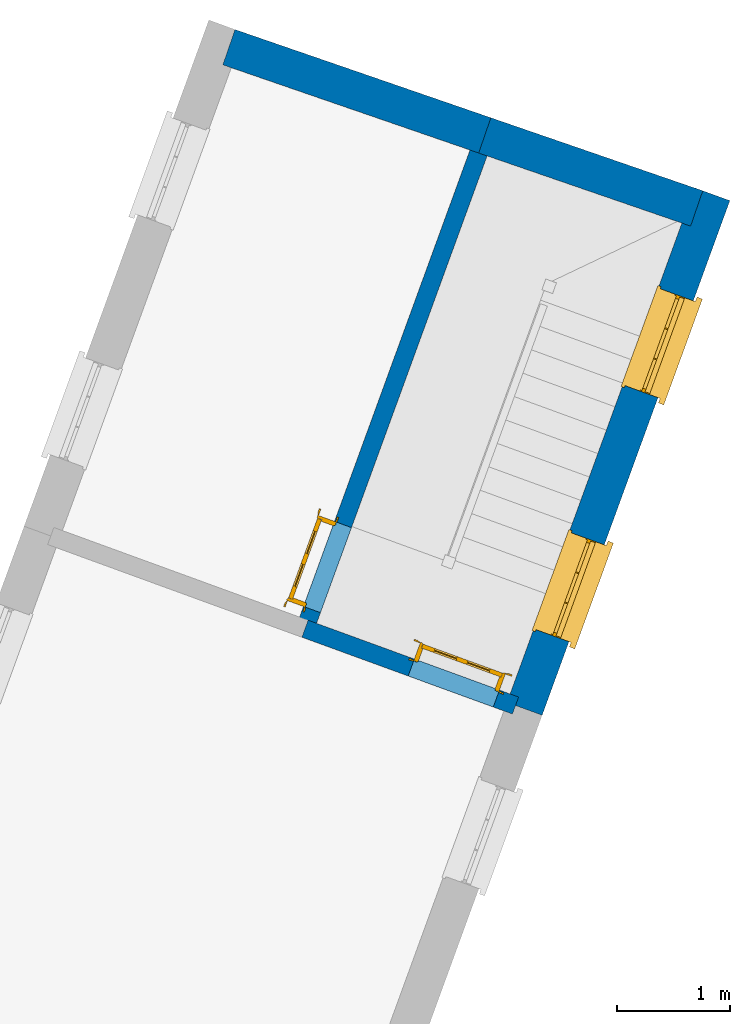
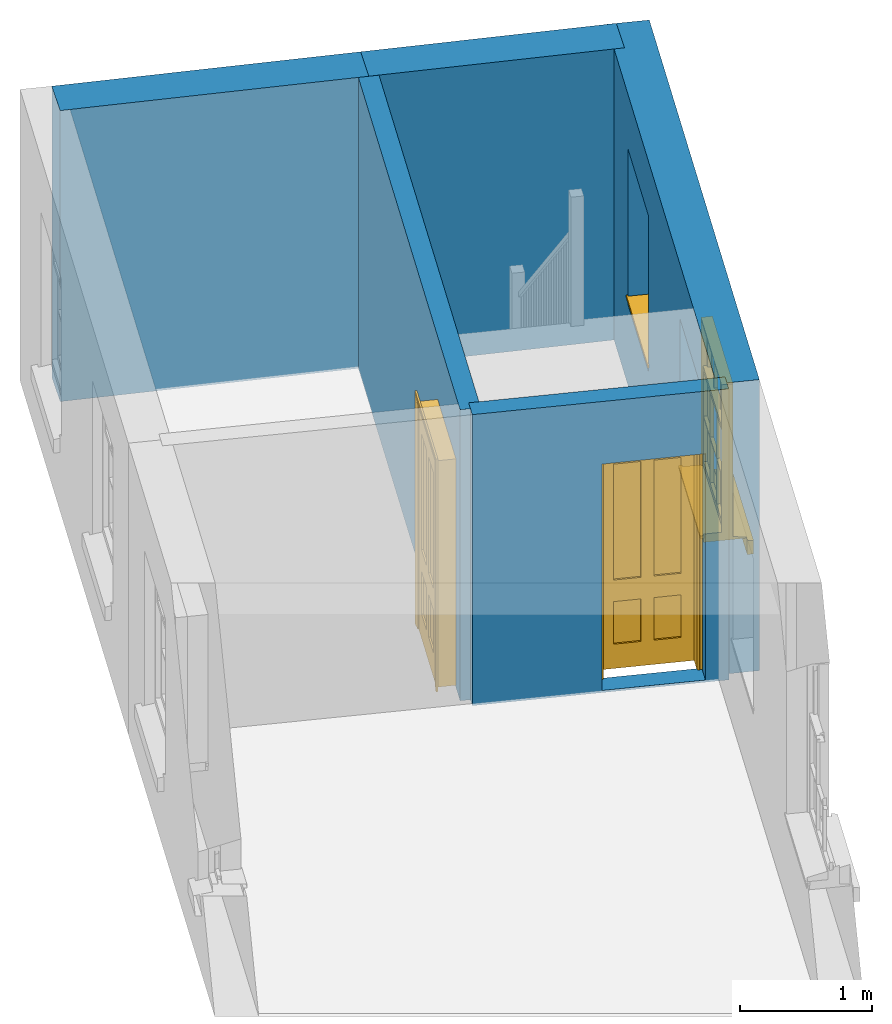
# One storey, part 2 of 2: 5 walls, 2 doors, 2 windows, 4 openings.
"""IFC4 building model written with IfcOpenShell, lengths in metres."""

from ifc_helpers import new_model, si_unit, frame, origin, origin_with_axes, place, context, subcontext, project, spatial, polyline, outline, extrude, faceted_brep, source, transform, mapped, material, layer, layer_set, layer_usage, type_object, type_shapes, element, fill, save


model = new_model("IFC4")

# Units and contexts
model_context = context("Model", 3, world=origin_with_axes())
body_context = subcontext(model_context, "Body", "Model", "MODEL_VIEW")
ifc_project = project(units=[si_unit("PLANEANGLEUNIT", "RADIAN"), si_unit("MASSUNIT", "GRAM", prefix="KILO"), si_unit("FORCEUNIT", "NEWTON", prefix="KILO"), si_unit("LENGTHUNIT", "METRE"), si_unit("AREAUNIT", "SQUARE_METRE"), si_unit("VOLUMEUNIT", "CUBIC_METRE")], contexts=[model_context, model_context])

# Sites, building, storey
site_1_placement = place(None, origin_with_axes())
site_1 = spatial("IfcSite", under=ifc_project, at=site_1_placement, Name="Tamar")
site_2_placement = place(site_1_placement, origin_with_axes())
site_2 = spatial("IfcSite", under=site_1, at=site_2_placement, Name="Site plot-12", CompositionType="ELEMENT")
building_placement = place(None, origin_with_axes())
building = spatial("IfcBuilding", under=site_2, at=building_placement, Name="Building plot-12", CompositionType="ELEMENT")
storey_placement = place(None, frame((0.0, 0.0, 29.6), z_axis=(0.0, 0.0, 1.0), x_axis=(1.0, 0.0, 0.0)))
storey = spatial("IfcBuildingStorey", under=building, at=storey_placement, Name="plot-12 1", CompositionType="ELEMENT", Elevation=29.6)

# Wall, openings, windows
ifc_material_1 = material(Name="Masonry")
ifc_layer_1 = layer(ifc_material_1, 0.33, ventilated=False)
ifc_layer_set_1 = layer_set([ifc_layer_1], Name="exterior_0.08_0.25")
ifc_layer_usage_1 = layer_usage(ifc_layer_set_1, "AXIS2", "POSITIVE", -0.25)
wall_type_1 = type_object("IfcWallType", Name="exterior_0.08_0.25", PredefinedType="SOLIDWALL", material=ifc_layer_set_1)
wall_1_placement = place(storey_placement, frame((239.482570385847, 304.323971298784, 0.0), z_axis=(0.0, 0.0, 1.0), x_axis=(0.342734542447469, 0.939432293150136, 0.0)))
wall_1 = element("IfcWall", 1, at=wall_1_placement, inside=storey, type_object=wall_type_1, material=ifc_layer_usage_1, Name="exterior", context=body_context, shape_type="SweptSolid", body=[
    extrude(outline(polyline([(1.37006098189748e-14, 0.0800000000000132), (-2.14962681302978e-15, -0.250000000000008), (4.83761552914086, -0.250000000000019), (4.83761552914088, 0.0800000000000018), (1.37006098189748e-14, 0.0800000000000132)])), origin_with_axes(), (0.0, 0.0, 1.0), 2.7),
])
opening_1_placement = place(wall_1_placement, frame((0.691903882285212, 0.0, 0.75)))
opening_1 = element("IfcOpeningElement", 2, at=opening_1_placement, cuts=wall_1, Name="My Opening", ObjectType="Opening", context=body_context, shape_type="SweptSolid", body=[
    extrude(outline(polyline([(0.0, -0.270000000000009), (0.910000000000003, -0.269999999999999), (0.910000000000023, 1.10000000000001), (1.92068583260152e-14, 1.1), (0.0, -0.270000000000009)])), origin_with_axes(), (0.0, 0.0, 1.0), 1.445),
])
opening_2_placement = place(wall_1_placement, frame((2.98571164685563, 0.0, 0.75)))
opening_2 = element("IfcOpeningElement", 3, at=opening_2_placement, cuts=wall_1, Name="My Opening", ObjectType="Opening", context=body_context, shape_type="SweptSolid", body=[
    extrude(outline(polyline([(0.0, -0.270000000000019), (0.910000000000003, -0.270000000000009), (0.910000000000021, 1.1), (1.90958360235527e-14, 1.09999999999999), (0.0, -0.270000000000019)])), origin_with_axes(), (0.0, 0.0, 1.0), 1.445),
])
window_type = type_object("IfcWindowType", Name="sash_shorter", PartitioningType="DOUBLE_PANEL_HORIZONTAL", PredefinedType="NOTDEFINED")
shared_shape_1 = source(origin(), body_context, "Body", "Brep", [
    faceted_brep([(0.876875, 0.145, 0.999097), (0.876875, 0.145, 1.411875), (0.9, 0.145, 1.435), (0.033125, 0.145, 1.411875), (0.033125, 0.145, 0.999097), (0.01, 0.145, 1.435), (0.033125, 0.115, 1.411875), (0.01, 0.115, 1.435), (0.033125, 0.115, 0.999097), (0.876875, 0.115, 1.411875), (0.876875, 0.115, 0.999097), (0.9, 0.115, 1.435), (0.033125, 0.145, 0.960972), (0.01, 0.145, 0.960972), (0.033125, 0.145, 0.548195), (0.876875, 0.145, 0.960972), (0.876875, 0.145, 0.548195), (0.9, 0.145, 0.960972), (0.876875, 0.145, 0.538195), (0.876875, 0.145, 0.125417), (0.9, 0.145, 0.077167), (0.033125, 0.145, 0.125417), (0.033125, 0.145, 0.538195), (0.01, 0.145, 0.077167), (0.9, 0.115, 0.960972), (0.01, 0.115, 0.960972), (-0.0425, 0.0, 0.01), (-0.0425, -0.05, 0.001667), (0.0, 0.0, 0.01), (0.9525, 0.0, 0.01), (0.91, 0.0, 0.01), (0.9525, -0.05, 0.001667), (-0.02, 0.33, 0.077167), (0.0, 0.33, 0.077167), (-0.02, 0.36, 0.077167), (0.0, 0.19, 0.077167), (0.01, 0.19, 0.077167), (0.91, 0.19, 0.077167), (0.91, 0.33, 0.077167), (0.9, 0.19, 0.077167), (0.93, 0.33, 0.077167), (0.93, 0.36, 0.077167), (0.01, 0.145, 0.999097), (0.01, 0.175, 0.999097), (0.9, 0.145, 0.999097), (0.9, 0.175, 0.999097), (0.876875, 0.175, 0.125417), (0.876875, 0.175, 0.538195), (0.9, 0.175, 0.077167), (0.876875, 0.175, 0.548195), (0.876875, 0.175, 0.960972), (0.033125, 0.175, 0.125417), (0.01, 0.175, 0.077167), (0.033125, 0.175, 0.538195), (0.033125, 0.175, 0.960972), (0.033125, 0.175, 0.548195), (-0.02, 0.33, 0.052167), (-0.02, 0.36, 0.052167), (0.93, 0.36, 0.052167), (0.93, 0.33, 0.052167), (0.91, 0.33, 0.052167), (0.0, 0.33, 0.052167), (0.91, 0.1, 0.026667), (0.0, 0.1, 0.026667), (-0.0425, -0.05, -0.123333), (0.9525, -0.05, -0.123333), (-0.0425, 0.0, -0.123333), (0.9525, 0.0, -0.123333), (0.01, 0.19, 1.435), (0.9, 0.19, 1.435), (0.0, 0.19, 1.445), (0.91, 0.19, 1.445), (0.01, 0.1, 0.077167), (0.9, 0.1, 0.077167), (0.592292, 0.145, 0.125417), (0.592292, 0.175, 0.125417), (0.317708, 0.175, 0.125417), (0.317708, 0.145, 0.125417), (0.592292, 0.145, 0.548195), (0.317708, 0.145, 0.548195), (0.317708, 0.145, 0.538195), (0.592292, 0.145, 0.538195), (0.592292, 0.175, 0.548195), (0.317708, 0.175, 0.548195), (0.602292, 0.175, 0.548195), (0.602292, 0.145, 0.548195), (0.317708, 0.175, 0.538195), (0.307708, 0.175, 0.125417), (0.307708, 0.175, 0.538195), (0.602292, 0.175, 0.538195), (0.602292, 0.175, 0.125417), (0.592292, 0.175, 0.538195), (0.307708, 0.175, 0.548195), (0.317708, 0.175, 0.960972), (0.307708, 0.175, 0.960972), (0.602292, 0.175, 0.960972), (0.592292, 0.175, 0.960972), (0.307708, 0.145, 0.538195), (0.307708, 0.145, 0.125417), (0.307708, 0.145, 0.548195), (0.307708, 0.145, 0.960972), (0.592292, 0.145, 0.960972), (0.317708, 0.145, 0.960972), (0.602292, 0.145, 0.960972), (0.602292, 0.145, 0.538195), (0.602292, 0.145, 0.125417), (0.317708, 0.115, 1.411875), (0.307708, 0.115, 1.411875), (0.307708, 0.115, 0.999097), (0.317708, 0.115, 0.999097), (0.602292, 0.115, 1.411875), (0.592292, 0.115, 1.411875), (0.592292, 0.115, 0.999097), (0.602292, 0.115, 0.999097), (0.317708, 0.145, 0.999097), (0.307708, 0.145, 0.999097), (0.307708, 0.145, 1.411875), (0.317708, 0.145, 1.411875), (0.602292, 0.145, 0.999097), (0.592292, 0.145, 0.999097), (0.592292, 0.145, 1.411875), (0.602292, 0.145, 1.411875), (0.91, 0.1, 1.445), (0.9, 0.1, 1.435), (0.01, 0.1, 1.435), (0.0, 0.1, 1.445), (0.91, 0.0, 0.0), (0.0, 0.0, 0.0), (0.91, 0.33, 0.0), (0.0, 0.33, 0.0)], [[[0, 1, 2]], [[3, 4, 5]], [[6, 7, 8]], [[9, 10, 11]], [[12, 13, 14]], [[15, 16, 17]], [[18, 19, 20]], [[21, 22, 23]], [[24, 15, 17]], [[13, 12, 25]], [[26, 27, 28]], [[29, 30, 31]], [[32, 33, 34]], [[35, 36, 33]], [[37, 38, 39]], [[40, 41, 38]], [[42, 4, 43]], [[44, 45, 0]], [[46, 47, 48]], [[49, 50, 45]], [[51, 52, 53]], [[54, 55, 43]], [[38, 33, 36, 39]], [[41, 34, 33, 38]], [[56, 32, 34, 57]], [[57, 34, 41, 58]], [[58, 41, 40, 59]], [[57, 58, 60, 61]], [[52, 48, 39, 36]], [[62, 63, 28, 30]], [[27, 31, 30, 28]], [[27, 64, 65, 31]], [[66, 67, 65, 64]], [[2, 5, 68, 69]], [[68, 70, 71, 69]], [[20, 23, 72, 73]], [[73, 72, 63, 62]], [[74, 75, 76, 77]], [[78, 79, 80, 81]], [[78, 82, 83, 79]], [[16, 49, 84, 85]], [[86, 76, 87, 88]], [[89, 90, 75, 91]], [[92, 88, 53, 55]], [[82, 91, 86, 83]], [[93, 83, 92, 94]], [[95, 84, 82, 96]], [[89, 84, 49, 47]], [[97, 88, 87, 98]], [[22, 53, 88, 97]], [[81, 91, 75, 74]], [[80, 86, 91, 81]], [[77, 76, 86, 80]], [[99, 92, 55, 14]], [[100, 94, 92, 99]], [[101, 96, 82, 78]], [[79, 83, 93, 102]], [[85, 84, 95, 103]], [[104, 89, 47, 18]], [[105, 90, 89, 104]], [[104, 18, 16, 85]], [[80, 97, 98, 77]], [[104, 81, 74, 105]], [[103, 101, 78, 85]], [[99, 14, 22, 97]], [[102, 100, 99, 79]], [[106, 107, 108, 109]], [[110, 111, 112, 113]], [[114, 115, 116, 117]], [[118, 119, 120, 121]], [[107, 116, 115, 108]], [[111, 120, 119, 112]], [[109, 114, 117, 106]], [[113, 118, 121, 110]], [[85, 78, 81, 104]], [[84, 89, 91, 82]], [[83, 86, 88, 92]], [[79, 99, 97, 80]], [[109, 112, 119, 114]], [[102, 93, 96, 101]], [[106, 117, 120, 111]], [[98, 87, 51, 21]], [[6, 3, 116, 107]], [[110, 121, 1, 9]], [[19, 46, 90, 105]], [[26, 66, 64, 27]], [[29, 31, 65, 67]], [[25, 24, 112, 109]], [[11, 7, 106, 111]], [[75, 48, 52, 76]], [[43, 45, 96, 93]], [[45, 43, 114, 119]], [[5, 2, 120, 117]], [[24, 25, 102, 101]], [[42, 5, 4]], [[2, 44, 0]], [[49, 45, 48, 47]], [[52, 43, 55, 53]], [[14, 13, 23, 22]], [[20, 17, 16, 18]], [[24, 11, 10]], [[25, 8, 7]], [[8, 4, 3, 6]], [[9, 1, 0, 10]], [[15, 50, 49, 16]], [[18, 47, 46, 19]], [[21, 51, 53, 22]], [[14, 55, 54, 12]], [[44, 2, 69, 45]], [[68, 5, 42, 43]], [[36, 35, 70, 68]], [[39, 69, 71, 37]], [[62, 122, 123, 73]], [[63, 72, 124, 125]], [[8, 108, 115, 4]], [[113, 10, 0, 118]], [[94, 100, 12, 54]], [[17, 20, 73, 24]], [[72, 23, 13, 25]], [[52, 36, 68, 43]], [[69, 39, 48, 45]], [[11, 24, 73, 123]], [[7, 124, 72, 25]], [[23, 77, 98]], [[98, 21, 23]], [[105, 74, 20]], [[20, 19, 105]], [[20, 74, 77, 23]], [[113, 112, 24]], [[24, 10, 113]], [[25, 109, 108]], [[108, 8, 25]], [[110, 9, 11]], [[11, 111, 110]], [[7, 6, 107]], [[107, 106, 7]], [[5, 117, 116]], [[116, 3, 5]], [[121, 120, 2]], [[2, 1, 121]], [[11, 123, 124, 7]], [[122, 125, 124, 123]], [[43, 93, 94]], [[94, 54, 43]], [[96, 45, 95]], [[50, 95, 45]], [[15, 103, 95, 50]], [[48, 75, 90]], [[90, 46, 48]], [[87, 76, 52]], [[52, 51, 87]], [[103, 15, 24]], [[24, 101, 103]], [[100, 102, 25]], [[25, 12, 100]], [[115, 114, 43]], [[43, 4, 115]], [[118, 0, 45]], [[45, 119, 118]], [[71, 70, 125, 122]], [[70, 35, 63, 125]], [[122, 62, 37, 71]], [[126, 67, 66, 127]], [[60, 58, 59]], [[38, 60, 59, 40]], [[61, 56, 57]], [[32, 56, 61, 33]], [[61, 60, 128, 129]], [[62, 60, 38, 37]], [[126, 128, 60, 62]], [[33, 61, 63, 35]], [[61, 129, 127, 63]], [[128, 126, 127, 129]], [[28, 127, 66, 26]], [[63, 127, 28]], [[29, 67, 126, 30]], [[30, 126, 62]]]),
])
type_shapes(window_type, [shared_shape_1])
window_1_placement = place(storey_placement, frame((239.97335646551, 304.881429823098, 0.75), z_axis=(0.0, 0.0, 1.0), x_axis=(0.311888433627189, 0.85488338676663, 0.0)))
window_1 = element("IfcWindow", 4, at=window_1_placement, inside=storey, type_object=window_type, Name="circulation outside window", OverallHeight=1.445, OverallWidth=0.91, context=body_context, shape_type="MappedRepresentation", body=[
    mapped(shared_shape_1, transform((0.0, 0.0, 0.0), scale=1.0)),
])
fill(opening_1, window_1)
window_2_placement = place(storey_placement, frame((240.759523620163, 307.036306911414, 0.75), z_axis=(0.0, 0.0, 1.0), x_axis=(0.311888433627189, 0.85488338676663, 0.0)))
window_2 = element("IfcWindow", 5, at=window_2_placement, inside=storey, type_object=window_type, Name="circulation outside window", OverallHeight=1.445, OverallWidth=0.91, context=body_context, shape_type="MappedRepresentation", body=[
    mapped(shared_shape_1, transform((0.0, 0.0, 0.0), scale=1.0)),
])
fill(opening_2, window_2)

# Walls
ifc_material_2 = material(Name="Masonry")
ifc_layer_2 = layer(ifc_material_2, 0.33, ventilated=False)
ifc_layer_set_2 = layer_set([ifc_layer_2], Name="party_0.08_0.25")
ifc_layer_usage_2 = layer_usage(ifc_layer_set_2, "AXIS2", "POSITIVE", -0.25)
wall_type_2 = type_object("IfcWallType", Name="party_0.08_0.25", PredefinedType="SOLIDWALL", material=ifc_layer_set_2)
wall_2_placement = place(storey_placement, frame((241.054904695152, 308.633725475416, 0.0), z_axis=(0.0, 0.0, 1.0), x_axis=(-0.945414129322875, 0.325871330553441, 0.0)))
element("IfcWall", 6, at=wall_2_placement, inside=storey, type_object=wall_type_2, material=ifc_layer_usage_2, Name="party", context=body_context, shape_type="SweptSolid", body=[
    extrude(outline(polyline([(7.50112444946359e-15, 0.0799999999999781), (-4.5921174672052e-15, -0.250000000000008), (1.97949901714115, -0.250000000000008), (1.97949901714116, 0.0799999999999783), (7.50112444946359e-15, 0.0799999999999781)])), origin_with_axes(), (0.0, 0.0, 1.0), 2.7),
])
wall_3_placement = place(storey_placement, frame((239.183458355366, 309.278787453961, 0.0), z_axis=(0.0, 0.0, 1.0), x_axis=(-0.945414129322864, 0.325871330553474, 0.0)))
element("IfcWall", 7, at=wall_3_placement, inside=storey, type_object=wall_type_2, material=ifc_layer_usage_2, Name="party", context=body_context, shape_type="SweptSolid", body=[
    extrude(outline(polyline([(4.73000777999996e-15, 0.0799999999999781), (4.06762212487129e-15, -0.250000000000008), (2.3902312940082, -0.250000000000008), (2.3902312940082, 0.0799999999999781), (4.73000777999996e-15, 0.0799999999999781)])), origin_with_axes(), (0.0, 0.0, 1.0), 2.7),
])

# Wall, opening, door
ifc_material_3 = material(Name="Masonry")
ifc_layer_3 = layer(ifc_material_3, 0.16, ventilated=False)
ifc_layer_set_3 = layer_set([ifc_layer_3], Name="interior_0.08_0.08")
ifc_layer_usage_3 = layer_usage(ifc_layer_set_3, "AXIS2", "POSITIVE", -0.08)
wall_type_3 = type_object("IfcWallType", Name="interior_0.08_0.08", PredefinedType="SOLIDWALL", material=ifc_layer_set_3)
wall_4_placement = place(storey_placement, frame((237.623262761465, 305.002305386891, 0.0), z_axis=(0.0, 0.0, 1.0), x_axis=(0.939432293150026, -0.342734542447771, 0.0)))
wall_4 = element("IfcWall", 8, at=wall_4_placement, inside=storey, type_object=wall_type_3, material=ifc_layer_usage_3, Name="interior", context=body_context, shape_type="SweptSolid", body=[
    extrude(outline(polyline([(-2.26883816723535e-15, 0.0799999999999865), (2.25904099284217e-15, -0.0799999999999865), (1.97918214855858, -0.0799999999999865), (1.97918214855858, 0.0799999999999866), (-2.26883816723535e-15, 0.0799999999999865)])), origin_with_axes(), (0.0, 0.0, 1.0), 2.7),
])
opening_3_placement = place(wall_4_placement, frame((0.999182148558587, 0.0, 0.0199999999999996)))
opening_3 = element("IfcOpeningElement", 9, at=opening_3_placement, cuts=wall_4, Name="My Opening", ObjectType="Opening", context=body_context, shape_type="SweptSolid", body=[
    extrude(outline(polyline([(0.0, -0.100000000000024), (0.799999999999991, -0.100000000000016), (0.799999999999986, 1.10000000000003), (-4.88498130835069e-15, 1.10000000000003), (0.0, -0.100000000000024)])), origin_with_axes(), (0.0, 0.0, 1.0), 2.1),
])
door_type = type_object("IfcDoorType", Name="door_inside", OperationType="SINGLE_SWING_LEFT", PredefinedType="NOTDEFINED")
shared_shape_2 = source(origin(), body_context, "Body", "Brep", [
    faceted_brep([(0.773, 0.33, 1.895), (0.66, 0.33, 1.895), (0.66, 0.33, 2.073), (0.773, 0.33, 2.073), (0.773, 0.33, 0.82), (0.66, 0.33, 0.82), (0.45, 0.33, 1.895), (0.45, 0.33, 2.073), (0.773, 0.33, 0.62), (0.66, 0.33, 0.62), (0.66, 0.315, 0.82), (0.66, 0.315, 1.895), (0.45, 0.315, 1.895), (0.35, 0.33, 1.895), (0.35, 0.33, 2.073), (0.773, 0.33, 0.225), (0.66, 0.33, 0.225), (0.45, 0.33, 0.62), (0.45, 0.33, 0.82), (0.45, 0.315, 0.82), (0.35, 0.33, 0.82), (0.14, 0.33, 2.073), (0.14, 0.33, 1.895), (0.773, 0.33, 0.0), (0.66, 0.33, 0.0), (0.66, 0.315, 0.225), (0.66, 0.315, 0.62), (0.45, 0.315, 0.62), (0.35, 0.33, 0.62), (0.35, 0.315, 0.82), (0.35, 0.315, 1.895), (0.14, 0.315, 1.895), (0.027, 0.33, 2.073), (0.027, 0.33, 1.895), (0.773, 0.292, 0.0), (0.66, 0.292, 0.0), (0.45, 0.33, 0.0), (0.45, 0.33, 0.225), (0.45, 0.315, 0.225), (0.35, 0.33, 0.225), (0.14, 0.33, 0.82), (0.14, 0.33, 0.62), (0.14, 0.315, 0.82), (0.027, 0.33, 0.82), (0.773, 0.292, 0.225), (0.66, 0.292, 0.225), (0.45, 0.292, 0.0), (0.35, 0.33, 0.0), (0.35, 0.315, 0.225), (0.35, 0.315, 0.62), (0.14, 0.315, 0.62), (0.027, 0.33, 0.62), (0.773, 0.292, 0.62), (0.66, 0.292, 0.62), (0.45, 0.292, 0.225), (0.35, 0.292, 0.0), (0.14, 0.33, 0.225), (0.14, 0.33, 0.0), (0.14, 0.315, 0.225), (0.027, 0.33, 0.225), (0.773, 0.292, 0.82), (0.66, 0.292, 0.82), (0.66, 0.307, 0.62), (0.66, 0.307, 0.225), (0.45, 0.307, 0.225), (0.35, 0.292, 0.225), (0.14, 0.292, 0.0), (0.027, 0.33, 0.0), (0.773, 0.292, 1.895), (0.66, 0.292, 1.895), (0.45, 0.292, 0.62), (0.45, 0.292, 0.82), (0.45, 0.307, 0.62), (0.35, 0.292, 0.62), (0.14, 0.292, 0.225), (0.027, 0.292, 0.0), (0.773, 0.292, 2.073), (0.66, 0.292, 2.073), (0.66, 0.307, 1.895), (0.66, 0.307, 0.82), (0.45, 0.307, 0.82), (0.35, 0.292, 0.82), (0.35, 0.307, 0.62), (0.35, 0.307, 0.225), (0.14, 0.307, 0.225), (0.027, 0.292, 0.225), (0.45, 0.292, 1.895), (0.45, 0.292, 2.073), (0.45, 0.307, 1.895), (0.35, 0.292, 1.895), (0.14, 0.292, 0.82), (0.14, 0.292, 0.62), (0.14, 0.307, 0.62), (0.027, 0.292, 0.62), (0.35, 0.292, 2.073), (0.35, 0.307, 1.895), (0.35, 0.307, 0.82), (0.14, 0.307, 0.82), (0.027, 0.292, 0.82), (0.14, 0.292, 2.073), (0.14, 0.292, 1.895), (0.14, 0.307, 1.895), (0.027, 0.292, 1.895), (0.027, 0.292, 2.073), (0.02, 0.335, 0.0), (0.005, 0.34, 0.0), (0.005, 0.34, 2.095), (0.02, 0.335, 2.08), (0.02, 0.33, 0.0), (0.0, 0.335, 0.0), (0.0, 0.335, 2.1), (0.795, 0.34, 2.095), (0.78, 0.335, 2.08), (0.02, 0.33, 2.08), (0.0, 0.33, 0.0), (-0.032, 0.345, 0.0), (-0.032, 0.345, 2.132), (0.8, 0.335, 2.1), (0.795, 0.34, 0.0), (0.78, 0.335, 0.0), (0.78, 0.33, 2.08), (0.04, 0.29, 0.0), (0.025, 0.29, 0.0), (0.025, 0.29, 2.075), (0.04, 0.29, 2.06), (-0.04, 0.34, 0.0), (-0.04, 0.34, 2.14), (0.832, 0.345, 2.132), (0.8, 0.335, 0.0), (0.78, 0.33, 0.0), (0.8, 0.33, 0.0), (0.86, 0.33, 0.0), (0.86, 0.33, 2.16), (0.8, 0.33, 2.1), (-0.06, 0.33, 2.16), (0.0, 0.33, 2.1), (-0.06, 0.33, 0.0), (-0.04, 0.345, 0.0), (-0.04, 0.345, 2.14), (0.84, 0.34, 2.14), (0.832, 0.345, 0.0), (0.84, 0.34, 0.0), (0.86, 0.345, 0.0), (0.86, 0.345, 2.16), (-0.06, 0.345, 2.16), (-0.06, 0.345, 0.0), (0.84, 0.345, 0.0), (0.84, 0.345, 2.14), (-0.025, 0.155, 0.0), (-0.025, 0.16, 0.0), (-0.025, 0.16, 2.125), (-0.025, 0.155, 2.125), (-0.017, 0.155, 0.0), (-0.017, 0.155, 2.117), (0.825, 0.16, 2.125), (0.825, 0.155, 2.125), (0.825, 0.155, 0.0), (0.845, 0.155, 0.0), (-0.045, 0.155, 2.145), (-0.045, 0.155, 0.0), (0.845, 0.155, 2.145), (0.015, 0.165, 0.0), (0.015, 0.165, 2.085), (0.817, 0.155, 2.117), (0.825, 0.16, 0.0), (0.845, 0.17, 0.0), (0.845, 0.17, 2.145), (-0.045, 0.17, 2.145), (-0.045, 0.17, 0.0), (0.02, 0.16, 0.0), (0.02, 0.16, 2.08), (0.785, 0.165, 2.085), (0.817, 0.155, 0.0), (0.8, 0.17, 0.0), (0.8, 0.17, 2.1), (0.0, 0.17, 2.1), (0.0, 0.17, 0.0), (0.035, 0.165, 0.0), (0.035, 0.165, 2.065), (0.78, 0.16, 2.08), (0.785, 0.165, 0.0), (0.775, 0.29, 2.075), (0.76, 0.29, 2.06), (0.035, 0.17, 2.065), (0.035, 0.17, 0.0), (0.765, 0.165, 2.065), (0.78, 0.16, 0.0), (0.765, 0.17, 0.0), (0.765, 0.17, 2.065), (0.765, 0.165, 0.0), (0.04, 0.17, 2.06), (0.04, 0.17, 0.0), (0.76, 0.17, 2.06), (0.76, 0.17, 0.0), (0.76, 0.29, 0.0), (0.775, 0.29, 0.0), (0.025, 0.33, 0.0), (0.025, 0.33, 2.075), (0.775, 0.33, 0.0), (0.775, 0.33, 2.075)], [[[0, 1, 2, 3]], [[1, 0, 4, 5]], [[1, 6, 7, 2]], [[8, 9, 5, 4]], [[1, 5, 10, 11]], [[6, 1, 11, 12]], [[6, 13, 14, 7]], [[15, 16, 9, 8]], [[9, 17, 18, 5]], [[5, 18, 19, 10]], [[10, 19, 12, 11]], [[18, 6, 12, 19]], [[18, 20, 13, 6]], [[21, 14, 13, 22]], [[23, 24, 16, 15]], [[9, 16, 25, 26]], [[17, 9, 26, 27]], [[17, 28, 20, 18]], [[13, 20, 29, 30]], [[22, 13, 30, 31]], [[32, 21, 22, 33]], [[34, 35, 24, 23]], [[24, 36, 37, 16]], [[16, 37, 38, 25]], [[25, 38, 27, 26]], [[37, 17, 27, 38]], [[37, 39, 28, 17]], [[40, 20, 28, 41]], [[20, 40, 42, 29]], [[31, 30, 29, 42]], [[40, 22, 31, 42]], [[33, 22, 40, 43]], [[35, 34, 44, 45]], [[35, 46, 36, 24]], [[36, 47, 39, 37]], [[28, 39, 48, 49]], [[41, 28, 49, 50]], [[43, 40, 41, 51]], [[45, 44, 52, 53]], [[46, 35, 45, 54]], [[46, 55, 47, 36]], [[56, 39, 47, 57]], [[39, 56, 58, 48]], [[50, 49, 48, 58]], [[56, 41, 50, 58]], [[51, 41, 56, 59]], [[53, 52, 60, 61]], [[45, 53, 62, 63]], [[54, 45, 63, 64]], [[55, 46, 54, 65]], [[55, 66, 57, 47]], [[59, 56, 57, 67]], [[61, 60, 68, 69]], [[70, 53, 61, 71]], [[53, 70, 72, 62]], [[72, 64, 63, 62]], [[70, 54, 64, 72]], [[65, 54, 70, 73]], [[65, 74, 66, 55]], [[67, 57, 66, 75]], [[69, 68, 76, 77]], [[61, 69, 78, 79]], [[71, 61, 79, 80]], [[73, 70, 71, 81]], [[65, 73, 82, 83]], [[74, 65, 83, 84]], [[74, 85, 75, 66]], [[86, 69, 77, 87]], [[69, 86, 88, 78]], [[88, 80, 79, 78]], [[86, 71, 80, 88]], [[81, 71, 86, 89]], [[73, 81, 90, 91]], [[73, 91, 92, 82]], [[83, 82, 92, 84]], [[91, 74, 84, 92]], [[91, 93, 85, 74]], [[89, 86, 87, 94]], [[81, 89, 95, 96]], [[90, 81, 96, 97]], [[90, 98, 93, 91]], [[94, 99, 100, 89]], [[89, 100, 101, 95]], [[101, 97, 96, 95]], [[100, 90, 97, 101]], [[100, 102, 98, 90]], [[99, 103, 102, 100]], [[32, 103, 99, 21]], [[102, 103, 32, 33]], [[98, 102, 33, 43]], [[21, 99, 94, 14]], [[94, 87, 7, 14]], [[7, 87, 77, 2]], [[76, 3, 2, 77]], [[43, 51, 93, 98]], [[51, 59, 85, 93]], [[67, 75, 85, 59]], [[34, 23, 15, 44]], [[44, 15, 8, 52]], [[52, 8, 4, 60]], [[0, 68, 60, 4]], [[0, 3, 76, 68]], [[104, 105, 106, 107]], [[104, 108, 109, 105]], [[105, 109, 110, 106]], [[107, 106, 111, 112]], [[107, 113, 108, 104]], [[114, 109, 108]], [[109, 115, 116, 110]], [[106, 110, 117, 111]], [[112, 111, 118, 119]], [[113, 107, 112, 120]], [[121, 122, 123, 124]], [[115, 109, 114, 125]], [[115, 125, 126, 116]], [[110, 116, 127, 117]], [[111, 117, 128, 118]], [[118, 128, 129, 119]], [[120, 112, 119, 129]], [[130, 129, 128]], [[130, 131, 132, 133]], [[133, 132, 134, 135]], [[135, 134, 136, 114]], [[136, 125, 114]], [[125, 137, 138, 126]], [[116, 126, 139, 127]], [[117, 127, 140, 128]], [[141, 130, 128, 140]], [[131, 130, 141]], [[131, 142, 143, 132]], [[132, 143, 144, 134]], [[134, 144, 145, 136]], [[137, 125, 136, 145]], [[143, 142, 146]], [[143, 146, 147]], [[137, 145, 144]], [[143, 147, 138]], [[138, 137, 144]], [[143, 138, 144]], [[126, 138, 147, 139]], [[127, 139, 141, 140]], [[142, 131, 141, 146]], [[139, 147, 146, 141]], [[148, 149, 150, 151]], [[149, 152, 153, 150]], [[151, 150, 154, 155]], [[155, 156, 157]], [[158, 159, 148]], [[158, 148, 151]], [[155, 157, 160]], [[158, 151, 155]], [[155, 160, 158]], [[152, 161, 162, 153]], [[150, 153, 163, 154]], [[155, 154, 164, 156]], [[156, 164, 165, 157]], [[157, 165, 166, 160]], [[160, 166, 167, 158]], [[158, 167, 168, 159]], [[161, 169, 170, 162]], [[153, 162, 171, 163]], [[154, 163, 172, 164]], [[165, 164, 173]], [[165, 173, 174, 166]], [[166, 174, 175, 167]], [[167, 175, 176, 168]], [[169, 177, 178, 170]], [[162, 170, 179, 171]], [[163, 171, 180, 172]], [[172, 180, 173, 164]], [[124, 123, 181, 182]], [[183, 178, 177, 184]], [[170, 178, 185, 179]], [[171, 179, 186, 180]], [[187, 173, 180]], [[185, 188, 187, 189]], [[188, 185, 178, 183]], [[179, 185, 189, 186]], [[189, 187, 180, 186]], [[190, 183, 184, 191]], [[192, 188, 183, 190]], [[191, 184, 122, 121]], [[124, 190, 191, 121]], [[193, 187, 188, 192]], [[182, 192, 190, 124]], [[184, 176, 122]], [[194, 195, 187, 193]], [[192, 182, 194, 193]], [[161, 176, 184]], [[114, 108, 122, 176]], [[173, 187, 195]], [[152, 149, 176, 161]], [[169, 161, 184, 177]], [[196, 122, 108]], [[176, 175, 135, 114]], [[173, 195, 129, 130]], [[176, 149, 168]], [[123, 122, 196, 197]], [[196, 108, 113, 197]], [[175, 174, 133, 135]], [[198, 129, 195]], [[133, 174, 173, 130]], [[159, 168, 149, 148]], [[181, 123, 197, 199]], [[197, 113, 120, 199]], [[199, 120, 129, 198]], [[195, 181, 199, 198]], [[195, 194, 182, 181]]]),
])
type_shapes(door_type, [shared_shape_2])
door_1_placement = place(storey_placement, frame((238.527653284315, 304.565907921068, 0.0199999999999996), z_axis=(0.0, 0.0, 1.0), x_axis=(0.751545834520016, -0.274187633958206, 0.0)))
door_1 = element("IfcDoor", 10, at=door_1_placement, inside=storey, type_object=door_type, Name="bedroom inside door", OverallHeight=2.1, OverallWidth=0.8, context=body_context, shape_type="MappedRepresentation", body=[
    mapped(shared_shape_2, transform((0.0, 0.0, 0.0), scale=1.0)),
])
fill(opening_3, door_1)

wall_5_placement = place(storey_placement, frame((237.623262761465, 305.002305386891, 0.0), z_axis=(0.0, 0.0, 1.0), x_axis=(0.342734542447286, 0.939432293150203, 0.0)))
wall_5 = element("IfcWall", 11, at=wall_5_placement, inside=storey, type_object=wall_type_3, material=ifc_layer_usage_3, Name="interior", context=body_context, shape_type="SweptSolid", body=[
    extrude(outline(polyline([(-2.41180272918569e-14, 0.0799999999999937), (2.41278244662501e-14, -0.0799999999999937), (4.55219827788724, -0.0799999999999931), (4.55219827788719, 0.0799999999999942), (-2.41180272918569e-14, 0.0799999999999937)])), origin_with_axes(), (0.0, 0.0, 1.0), 2.7),
])
opening_4_placement = place(wall_5_placement, frame((0.180000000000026, 0.0, 0.0199999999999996)))
opening_4 = element("IfcOpeningElement", 12, at=opening_4_placement, cuts=wall_5, Name="My Opening", ObjectType="Opening", context=body_context, shape_type="SweptSolid", body=[
    extrude(outline(polyline([(0.0, -0.0999999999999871), (0.799999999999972, -0.100000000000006), (0.79999999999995, 1.09999999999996), (-2.17603712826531e-14, 1.09999999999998), (0.0, -0.0999999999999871)])), origin_with_axes(), (0.0, 0.0, 1.0), 2.1),
])
door_2_placement = place(storey_placement, frame((237.778898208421, 305.137129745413, 0.0199999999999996), z_axis=(0.0, 0.0, 1.0), x_axis=(0.274187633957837, 0.75154583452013, 0.0)))
door_2 = element("IfcDoor", 13, at=door_2_placement, inside=storey, type_object=door_type, Name="toilet inside door", OverallHeight=2.1, OverallWidth=0.8, context=body_context, shape_type="MappedRepresentation", body=[
    mapped(shared_shape_2, transform((0.0, 0.0, 0.0), scale=1.0)),
])
fill(opening_4, door_2)

save(model, "model.ifc")
